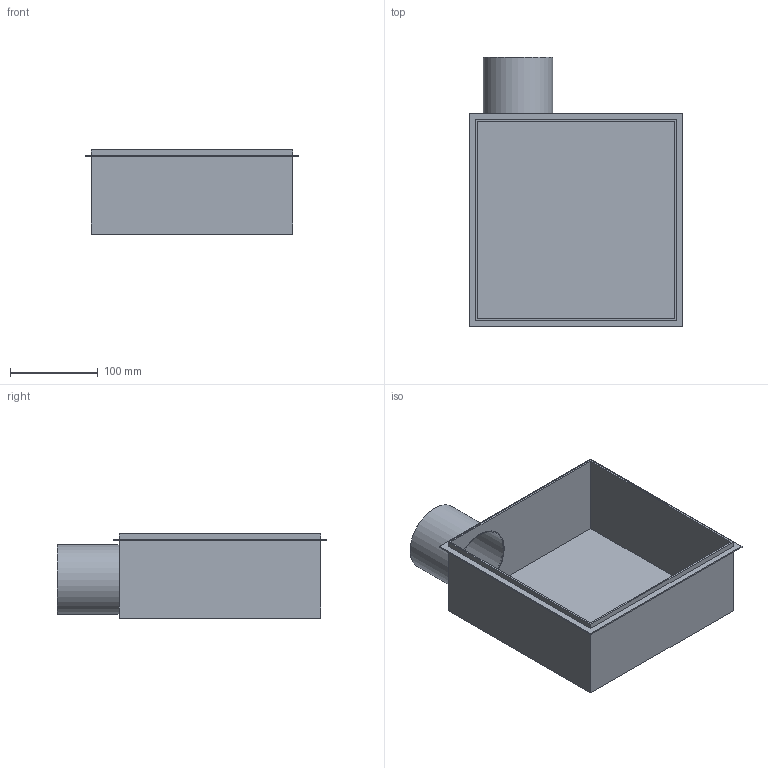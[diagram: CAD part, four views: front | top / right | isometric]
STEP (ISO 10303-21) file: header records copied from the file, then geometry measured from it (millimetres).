
FILE_DESCRIPTION (( 'STEP AP203' ), '1' );
FILE_NAME ('ELS_GUBA-08114-001.STEP', '2019-09-05T07:32:23', ( '' ), ( '' ), 'SwSTEP 2.0', 'SolidWorks 2018', '' );
FILE_SCHEMA (( 'CONFIG_CONTROL_DESIGN' ));
Length unit declared in the file: millimetre
Products named in the file (1): ELS_GUBA-08114-001
Bounding box: 244 x 307.9 x 96 mm (x, y, z)
Volume: 295098.5 mm3; surface area: 319260.8 mm2
Topology: 2 solids, 2 shells, 26 faces, 60 edges, 41 vertices
Faces by surface type: plane 23, cylinder 3
Full cylindrical faces by diameter (mm): 77 x1, 79 x2
Entity records: 775 total; most frequent: CARTESIAN_POINT 119, DIRECTION 114, ORIENTED_EDGE 108, EDGE_CURVE 54, VECTOR 48, LINE 48, VERTEX_POINT 38, EDGE_LOOP 36
